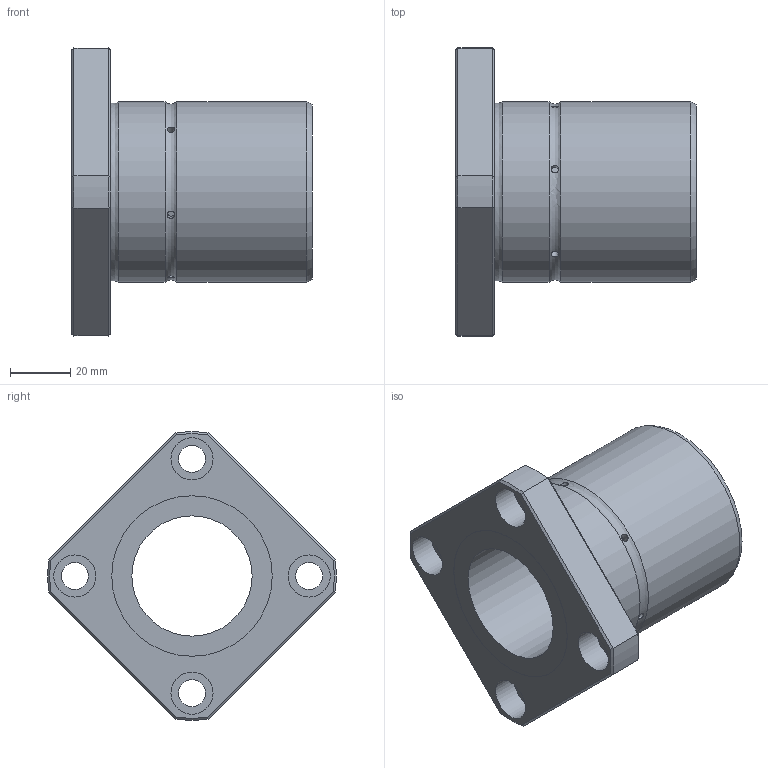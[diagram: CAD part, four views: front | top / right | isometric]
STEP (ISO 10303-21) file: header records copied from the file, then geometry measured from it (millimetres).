
FILE_DESCRIPTION((''),'2;1');
FILE_NAME('D:\製品 (図面)\カタログ用3D\リニアベアリング関連\STEP形式\LFK-OH\LFK40-OH.stp','2010-06-04T08:57:25',('Tsuchiya'),(''),'Autodesk Inventor 10','Autodesk Inventor 10','');
FILE_SCHEMA(('AUTOMOTIVE_DESIGN { 1 0 10303 214 1 1 1 1 }'));
Length unit declared in the file: millimetre
Products named in the file (1): LFK40-OH
Bounding box: 80 x 95.93 x 95.93 mm (x, y, z)
Volume: 153095.6 mm3; surface area: 36282 mm2
Topology: 1 solids, 1 shells, 61 faces, 124 edges, 78 vertices
Faces by surface type: cylinder 23, plane 21, bspline 8, cone 8, torus 1
Full cylindrical faces by diameter (mm): 9 x4, 14 x4, 40 x1, 53.4 x2, 60 x2
Entity records: 2241 total; most frequent: CARTESIAN_POINT 1090, DIRECTION 220, ORIENTED_EDGE 192, EDGE_LOOP 106, AXIS2_PLACEMENT_3D 98, EDGE_CURVE 96, VERTEX_POINT 72, FACE_OUTER_BOUND 61
